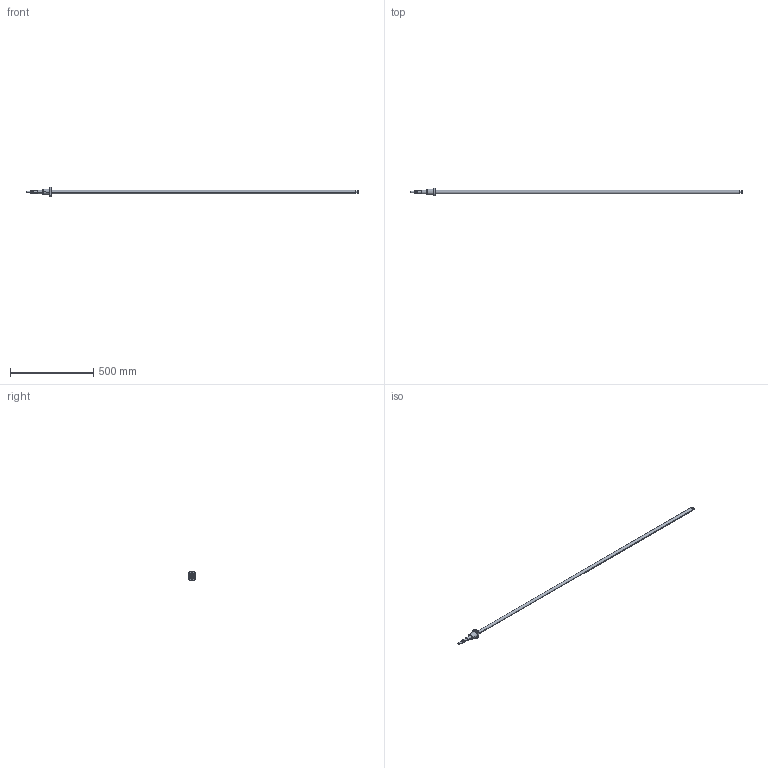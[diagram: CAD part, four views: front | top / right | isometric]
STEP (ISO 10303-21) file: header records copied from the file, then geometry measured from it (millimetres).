
FILE_DESCRIPTION (( 'STEP AP214' ), '1' );
FILE_NAME ('7.3008 STNUR2005-DFC7-2000-P1-0.05.STEP', '2026-03-10T08:29:26', ( '' ), ( '' ), 'SwSTEP 2.0', 'SolidWorks 2025', '' );
FILE_SCHEMA (( 'AUTOMOTIVE_DESIGN' ));
Length unit declared in the file: millimetre
Products named in the file (3): 7.3100 STNUR2005T4D; 7.3008 STNUR2005-DFC7-2000-P1-0.05; 7.3033 TCR2005-FC7
Assembly tree (2 placements, depth 2):
  7.3008 STNUR2005-DFC7-2000-P1-0.05
    7.3033 TCR2005-FC7
    7.3100 STNUR2005T4D
Bounding box: 2000 x 44 x 58 mm (x, y, z)
Volume: 648769.5 mm3; surface area: 139365.2 mm2
Topology: 3 solids, 3 shells, 161 faces, 408 edges, 268 vertices
Faces by surface type: cylinder 81, plane 36, bspline 29, cone 9, torus 6
Entity records: 15512 total; most frequent: CARTESIAN_POINT 11818, ORIENTED_EDGE 816, DIRECTION 640, EDGE_CURVE 408, VERTEX_POINT 268, AXIS2_PLACEMENT_3D 232, EDGE_LOOP 192, VECTOR 176
